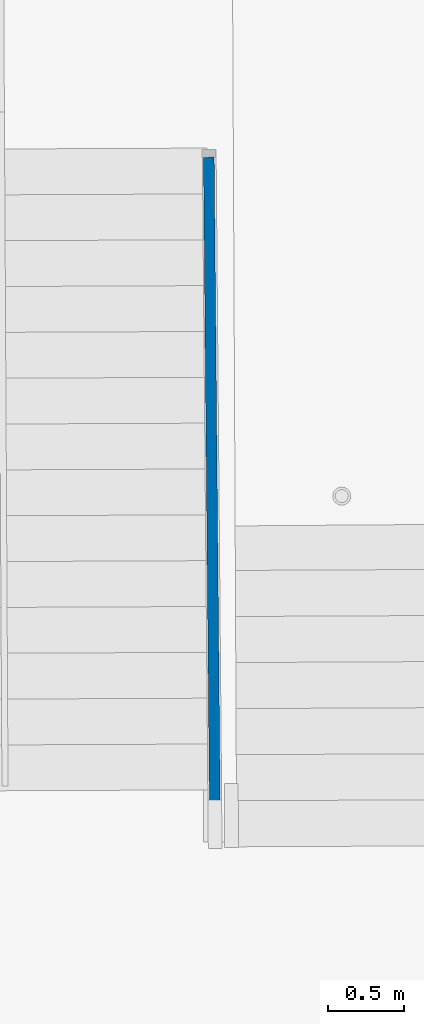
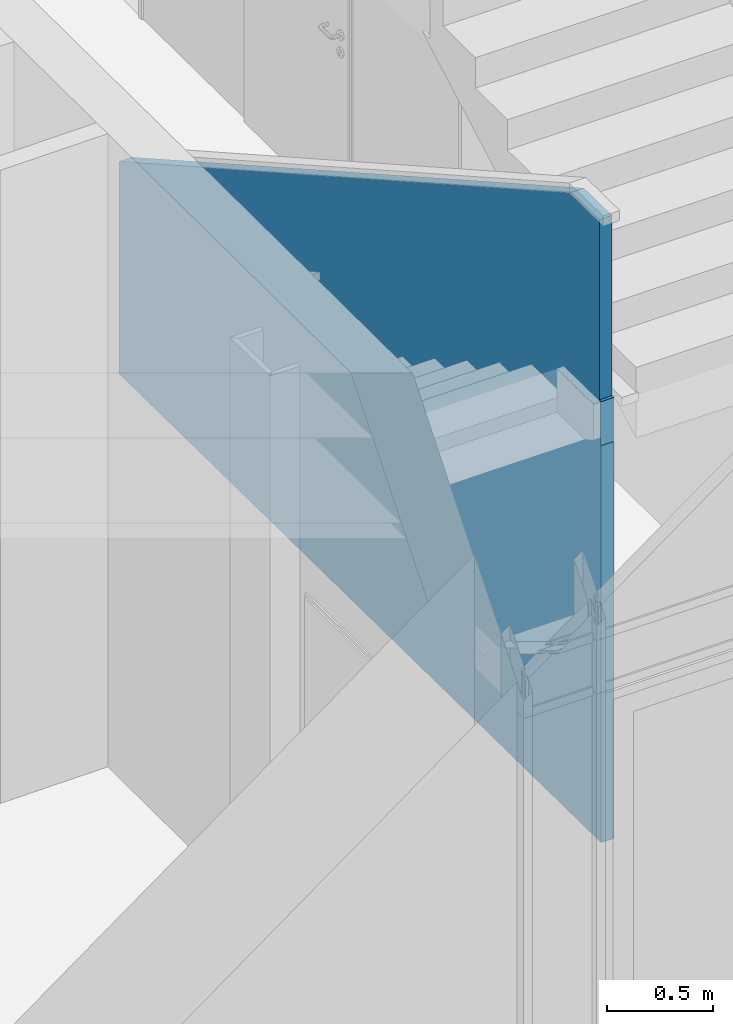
# One storey, part 76 of 196: 1 wall.
"""IFC2X3 building model written with IfcOpenShell, lengths in metres."""

from ifc_helpers import new_model, entity, si_unit, converted_unit, derived_unit, money_unit, direction, frame, origin_with_axes, place, context, subcontext, project, spatial, polyline, outline, extrude, boolean, faceted_brep, material, type_object, element, save


model = new_model("IFC2X3")

# Units and contexts
model_context = context("Model", 3, precision=1e-05, world=origin_with_axes(), true_north=direction((0.0, 1.0)))
body_context = subcontext(model_context, "Body", "Model", "MODEL_VIEW")
ifc_project = project(units=[si_unit("LENGTHUNIT", "METRE"), si_unit("AREAUNIT", "SQUARE_METRE"), si_unit("VOLUMEUNIT", "CUBIC_METRE"), converted_unit("PLANEANGLEUNIT", "DEGREE", entity("IfcPlaneAngleMeasure", 0.0174532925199), si_unit("PLANEANGLEUNIT", "RADIAN"), dimensions=[0, 0, 0, 0, 0, 0, 0]), money_unit("EUR"), converted_unit("TIMEUNIT", "Year", entity("IfcTimeMeasure", 31556926.0), si_unit("TIMEUNIT", "SECOND"), dimensions=[0, 0, 1, 0, 0, 0, 0]), si_unit("MASSUNIT", "GRAM", prefix="KILO"), si_unit("THERMODYNAMICTEMPERATUREUNIT", "DEGREE_CELSIUS"), si_unit("LUMINOUSINTENSITYUNIT", "LUMEN"), si_unit("ENERGYUNIT", "JOULE", prefix="MEGA"), derived_unit("THERMALCONDUCTANCEUNIT", [(si_unit("POWERUNIT", "WATT"), 1), (si_unit("LENGTHUNIT", "METRE"), -1), (si_unit("THERMODYNAMICTEMPERATUREUNIT", "KELVIN"), -1)]), derived_unit("SPECIFICHEATCAPACITYUNIT", [(si_unit("ENERGYUNIT", "JOULE"), 1), (si_unit("MASSUNIT", "GRAM", prefix="KILO"), -1), (si_unit("THERMODYNAMICTEMPERATUREUNIT", "KELVIN"), -1)]), derived_unit("MASSDENSITYUNIT", [(si_unit("MASSUNIT", "GRAM", prefix="KILO"), 1), (si_unit("VOLUMEUNIT", "CUBIC_METRE"), -1)])], contexts=[model_context])

# Site, building, storey
site_placement = place(None, origin_with_axes())
site = spatial("IfcSite", under=ifc_project, at=site_placement, Name="Gelände", CompositionType="ELEMENT")
building_placement = place(site_placement, origin_with_axes())
building = spatial("IfcBuilding", under=site, at=building_placement, Name="Gebäude", CompositionType="ELEMENT")
storey_placement = place(building_placement, frame((0.0, 0.0, -3.0), z_axis=(0.0, 0.0, 1.0), x_axis=(1.0, 0.0, 0.0)))
storey = spatial("IfcBuildingStorey", under=building, at=storey_placement, Name="KELLERGESCHOSS", CompositionType="ELEMENT", Elevation=-3.0)

# Wall
ifc_material = material(Name="01_ALLGEMEIN - BAUTEIL")
wall_type = type_object("IfcWallType", Name="01_ALLGEMEIN - BAUTEIL 70", PredefinedType="ELEMENTEDWALL")
wall_placement = place(storey_placement, frame((-25.1919992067, 37.0738093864, 0.25), z_axis=(0.0, 0.0, 1.0), x_axis=(0.00923696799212, -0.999957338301, 0.0)))
element("IfcWall", 1, at=wall_placement, inside=storey, type_object=wall_type, material=ifc_material, Name="Wand-030", ObjectType="ELEMENTEDWALL", context=body_context, shape_type="CSG", body=[
    boolean("DIFFERENCE", boolean("DIFFERENCE", extrude(outline(polyline([(0.0, -0.07), (4.50524971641, -0.07), (4.50524971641, 0.0), (0.0, 0.0), (0.0, -0.07)])), origin_with_axes(), (0.0, 0.0, 1.0), 3.81), faceted_brep([(4.49980426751, 0.0, 2.45816966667), (4.49980426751, 0.0, 2.71), (4.50524971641, 0.0, 2.71), (4.50524971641, 0.0, 2.45816966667), (4.49965864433, -0.07, 2.45816966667), (4.49965864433, -0.07, 2.71), (4.50524971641, -0.07, 2.71), (4.50524971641, -0.07, 2.45816966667)], [[[0, 1, 2, 3]], [[1, 0, 4, 5]], [[6, 2, 1, 5]], [[7, 3, 2, 6]], [[0, 3, 7, 4]], [[4, 7, 6, 5]]])), faceted_brep([(4.50524971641, -0.07, 2.71397311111), (4.50524971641, 0.0, 2.71397311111), (4.50524971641, 0.0, 3.81), (4.50524971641, -0.07, 3.81), (4.48736946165, 0.0, 2.71397311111), (4.4876724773, -0.07, 2.71397311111), (0.0213385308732, 0.0, 0.17), (4.50524971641, 0.0, 0.17), (4.50524971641, 0.0, 0.0), (0.0, 0.0, 0.0), (0.0, 0.0, 3.81), (4.48736946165, 0.0, 3.75261887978), (4.22657326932, 0.0, 3.75261919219), (0.0213385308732, 0.0, 1.39446696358), (0.0, -0.07, 3.81), (0.0, -0.07, 0.0), (4.50524971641, -0.07, 0.0), (4.50524971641, -0.07, 0.17), (0.0220060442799, -0.07, 0.17), (0.0220060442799, -0.07, 1.39486756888), (4.22652639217, -0.07, 3.75261908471), (4.4876724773, -0.07, 3.75261887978)], [[[0, 1, 2, 3]], [[4, 1, 0, 5]], [[6, 7, 8, 9, 10, 2, 1, 4, 11, 12, 13]], [[10, 14, 3, 2]], [[5, 0, 3, 14, 15, 16, 17, 18, 19, 20, 21]], [[11, 4, 5, 21]], [[17, 7, 6, 18]], [[7, 17, 16, 8]], [[16, 15, 9, 8]], [[10, 9, 15, 14]], [[12, 11, 21, 20]], [[13, 12, 20, 19]], [[6, 13, 19, 18]]])),
])

save(model, "model.ifc")
